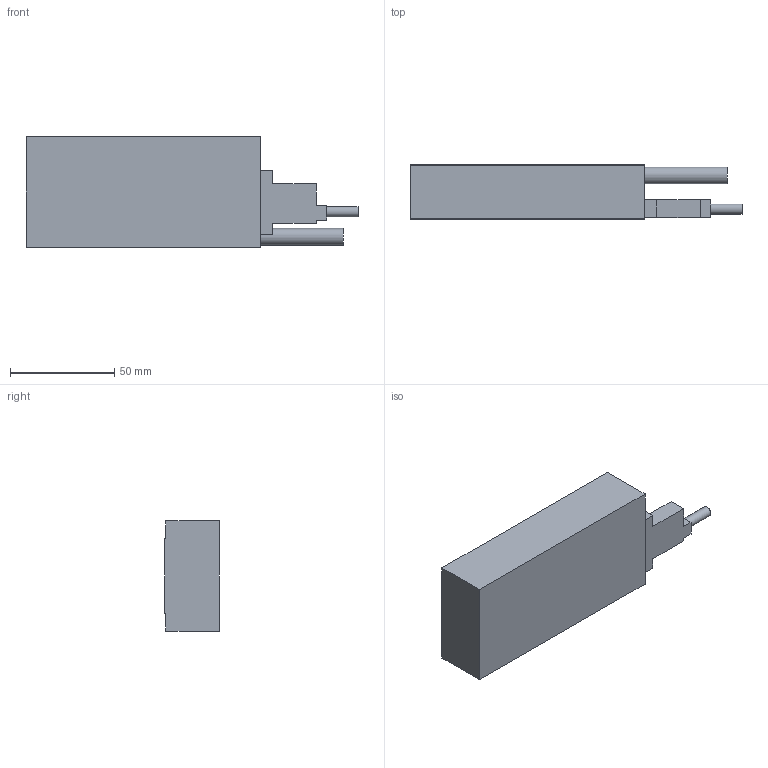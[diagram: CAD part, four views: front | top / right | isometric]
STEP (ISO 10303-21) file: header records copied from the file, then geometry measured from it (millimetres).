
FILE_DESCRIPTION(/* description */ ('STEP AP242 Edition 2','CAx-IF Rec.Pracs.---Representation and Presentation of Product Manufacturing Information (PMI)---4.0---2014-10-13','CAx-IF Rec.Pracs.---3D Tessellated Geometry---0.4---2014-09-14','2;1','CAx-IF Rec.Pracs.---User Defined Attributes---1.5---2016-08-15'),/* implementation_level */ '2;1');
FILE_NAME(/* name */ 'CS20S (1)',/* time_stamp */ '2026-04-13T00:50:31Z',/* author */ (''),/* organization */ (''),/* preprocessor_version */ 'ST-DEVELOPER v20',/* originating_system */ 'ONSHAPE BY PTC INC, 1.213',/* authorisation */ ' ');
FILE_SCHEMA (('AP242_MANAGED_MODEL_BASED_3D_ENGINEERING_MIM_LF { 1 0 10303 442 3 1 4 }'));
Length unit declared in the file: metre
Products named in the file (1): CS20S
Bounding box: 159.5 x 26 x 53 mm (x, y, z)
Volume: 159760 mm3; surface area: 25326.3 mm2
Topology: 1 solids, 2 shells, 74 faces, 184 edges, 119 vertices
Faces by surface type: plane 41, cylinder 23, cone 10
Full cylindrical faces by diameter (mm): 2.5 x2, 3.3 x8, 3.4 x2, 4.9 x2, 8 x1
Entity records: 2016 total; most frequent: DIRECTION 346, CARTESIAN_POINT 339, ORIENTED_EDGE 294, EDGE_CURVE 147, AXIS2_PLACEMENT_3D 124, VERTEX_POINT 117, FACE_BOUND 114, EDGE_LOOP 104
